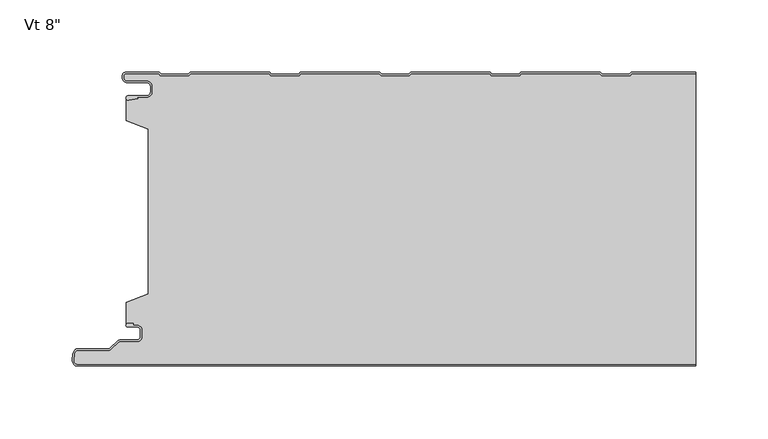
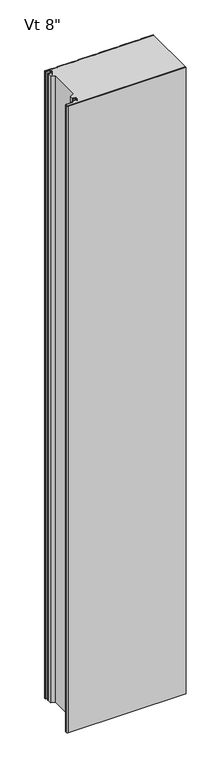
"""IFC4 building model written with IfcOpenShell, lengths in millimetres: plate geometry."""

from ifc_helpers import new_model, si_unit, point, frame, frame_2d, origin, origin_with_axes, place, context, project, spatial, polyline, circle_curve, trimmed, segment, composite_curve, outline, extrude, source, transform, mapped, element, save
from ifc_brep_helpers import plane_surface, cylinder_surface, revolved_surface, advanced_brep


def plate_cf5771db(model_context):
    return source(origin(), model_context, "Body", "SolidModel", [
        extrude(outline(composite_curve([segment(polyline([(-196.9639401, -1.03e-05), (-173.8991777, -1.03e-05), (-172.6989573, -1.2002307), (-153.8919247, -1.2002307), (-152.6916939, 0.0), (-97.6993404, 0.0), (-96.4991097, -1.2002307), (-77.6920771, -1.2002307), (-76.4918463, 0.0), (-21.5159312, 0.0), (-20.3157004, -1.2002307), (-1.5086678, -1.2002307), (-0.3084371, 0.0), (54.667478, 0.0), (55.8677088, -1.2002307), (74.6747414, -1.2002307), (75.8749721, 0.0), (130.8673256, 0.0), (132.0675564, -1.2002307), (150.874589, -1.2002307), (152.0748197, 0.0), (196.6137654, 0.0), (196.6137654, -1.0), (152.4890333, -1.0), (151.2888025, -2.2002307), (131.6533428, -2.2002307), (130.4531121, -1.0), (76.2891857, -1.0), (75.0889549, -2.2002307), (55.4534952, -2.2002307), (54.2532645, -1.0), (0.1057765, -1.0), (-1.0944543, -2.2002307), (-20.729914, -2.2002307), (-21.9301447, -1.0), (-76.0776328, -1.0), (-77.2778635, -2.2002307), (-96.9133232, -2.2002307), (-98.113554, -1.0), (-152.2774804, -1.0), (-153.4777111, -2.2002307), (-173.1131708, -2.2002307), (-174.3133912, -1.0000103), (-196.9839768, -1.0000103)]), True, "CONTINUOUS"), segment(trimmed(circle_curve(frame_2d((-197.0487242, -2.3984828)), 1.3999705), [point((-196.9839768, -1.0000103))], [point((-198.4486947, -2.3984828))], True, "CARTESIAN"), True, "CONTINUOUS"), segment(polyline([(-198.4486947, -2.3984828), (-198.4486947, -3.9515996)]), True, "CONTINUOUS"), segment(trimmed(circle_curve(frame_2d((-196.2386394, -3.9515996)), 2.2100553), [point((-198.4486947, -3.9515996))], [point((-196.2386394, -6.1616549))], True, "CARTESIAN"), True, "CONTINUOUS"), segment(polyline([(-196.2386394, -6.1616549), (-182.7094114, -6.1616549)]), True, "CONTINUOUS"), segment(trimmed(circle_curve(frame_2d((-182.7094114, -9.881641)), 3.7199861), [point((-182.7094114, -6.1616549))], [point((-178.9894252, -9.881641))], False, "CARTESIAN"), True, "CONTINUOUS"), segment(polyline([(-178.9894252, -9.881641), (-178.9894252, -13.5282389)]), True, "CONTINUOUS"), segment(trimmed(circle_curve(frame_2d((-182.7094216, -13.5282389)), 3.7199964), [point((-178.9894252, -13.5282389))], [point((-182.7094216, -17.2482353))], False, "CARTESIAN"), True, "CONTINUOUS"), segment(polyline([(-182.7094216, -17.2482353), (-189.0545396, -17.2482353), (-188.8919338, -18.1704184), (-195.1454629, -19.2730843)]), True, "CONTINUOUS"), segment(trimmed(circle_curve(frame_2d((-195.4101029, -17.7722363)), 1.524001), [point((-195.1454629, -19.2730843))], [point((-195.4101029, -16.2482353))], False, "CARTESIAN"), True, "CONTINUOUS"), segment(polyline([(-195.4101029, -16.2482353), (-182.7094216, -16.2482353)]), True, "CONTINUOUS"), segment(trimmed(circle_curve(frame_2d((-182.7094216, -13.5282389)), 2.7199964), [point((-182.7094216, -16.2482353))], [point((-179.9894252, -13.5282389))], True, "CARTESIAN"), True, "CONTINUOUS"), segment(polyline([(-179.9894252, -13.5282389), (-179.9894252, -9.881641)]), True, "CONTINUOUS"), segment(trimmed(circle_curve(frame_2d((-182.7094114, -9.881641)), 2.7199861), [point((-179.9894252, -9.881641))], [point((-182.7094114, -7.1616549))], True, "CARTESIAN"), True, "CONTINUOUS"), segment(polyline([(-182.7094114, -7.1616549), (-196.2386394, -7.1616549)]), True, "CONTINUOUS"), segment(trimmed(circle_curve(frame_2d((-196.2386394, -3.9515996)), 3.2100553), [point((-196.2386394, -7.1616549))], [point((-199.4486948, -3.9515996))], False, "CARTESIAN"), True, "CONTINUOUS"), segment(polyline([(-199.4486948, -3.9515996), (-199.4486947, -2.3984828)]), True, "CONTINUOUS"), segment(trimmed(circle_curve(frame_2d((-197.0487242, -2.3984828)), 2.3999705), [point((-199.4486947, -2.3984828))], [point((-196.9639401, -1.03e-05))], False, "CARTESIAN"), True, "CONTINUOUS")], self_intersect=False)), origin_with_axes(), (0.0, 0.0, 1.0), 2400.0),
        extrude(outline(composite_curve([segment(polyline([(-195.7329864, -173.7060333), (-191.9745857, -173.7060333), (-191.9745857, -175.1045169), (-189.2754693, -175.1045169)]), True, "CONTINUOUS"), segment(trimmed(circle_curve(frame_2d((-189.2754693, -178.4545168)), 3.3499999), [point((-189.2754693, -175.1045169))], [point((-185.9254694, -178.4545168))], False, "CARTESIAN"), True, "CONTINUOUS"), segment(polyline([(-185.9254694, -178.4545168), (-185.9254694, -182.8545166)]), True, "CONTINUOUS"), segment(trimmed(circle_curve(frame_2d((-189.2754693, -182.8545166)), 3.3499999), [point((-185.9254694, -182.8545166))], [point((-189.2754693, -186.2045165))], False, "CARTESIAN"), True, "CONTINUOUS"), segment(polyline([(-189.2754693, -186.2045165), (-201.0863815, -186.2045165)]), True, "CONTINUOUS"), segment(trimmed(circle_curve(frame_2d((-201.0863815, -187.9045165)), 1.7), [point((-201.0863815, -186.2045165))], [point((-202.288463, -186.702435))], True, "CARTESIAN"), True, "CONTINUOUS"), segment(polyline([(-202.288463, -186.702435), (-207.029022, -191.4429939)]), True, "CONTINUOUS"), segment(trimmed(circle_curve(frame_2d((-208.8674996, -189.6045163)), 2.6), [point((-207.029022, -191.4429939))], [point((-208.8674996, -192.2045163))], False, "CARTESIAN"), True, "CONTINUOUS"), segment(polyline([(-208.8674996, -192.2045163), (-229.8742569, -192.2045163)]), True, "CONTINUOUS"), segment(trimmed(circle_curve(frame_2d((-229.8742569, -194.9045163)), 2.7), [point((-229.8742569, -192.2045163))], [point((-232.563964, -194.6689835))], True, "CARTESIAN"), True, "CONTINUOUS"), segment(polyline([(-232.563964, -194.6689835), (-232.9796492, -199.4159721)]), True, "CONTINUOUS"), segment(trimmed(circle_curve(frame_2d((-230.4287597, -199.6393488)), 2.5606512), [point((-232.9796492, -199.4159721))], [point((-230.4287597, -202.2))], True, "CARTESIAN"), True, "CONTINUOUS"), segment(polyline([(-230.4287597, -202.2), (196.6137654, -202.2), (196.6137654, -203.2), (-230.4287597, -203.2)]), True, "CONTINUOUS"), segment(trimmed(circle_curve(frame_2d((-230.4287597, -199.6393488)), 3.5606512), [point((-230.4287597, -203.2))], [point((-233.975837, -199.3287377))], False, "CARTESIAN"), True, "CONTINUOUS"), segment(polyline([(-233.975837, -199.3287377), (-233.5601518, -194.5817491)]), True, "CONTINUOUS"), segment(trimmed(circle_curve(frame_2d((-229.8742569, -194.9045163)), 3.7), [point((-233.5601518, -194.5817491))], [point((-229.8742569, -191.2045163))], False, "CARTESIAN"), True, "CONTINUOUS"), segment(polyline([(-229.8742569, -191.2045163), (-208.8674996, -191.2045163)]), True, "CONTINUOUS"), segment(trimmed(circle_curve(frame_2d((-208.8674996, -189.6045163)), 1.6), [point((-208.8674996, -191.2045163))], [point((-207.7361288, -190.7358871))], True, "CARTESIAN"), True, "CONTINUOUS"), segment(polyline([(-207.7361288, -190.7358871), (-202.9955698, -185.9953282)]), True, "CONTINUOUS"), segment(trimmed(circle_curve(frame_2d((-201.0863815, -187.9045165)), 2.7), [point((-202.9955698, -185.9953282))], [point((-201.0863815, -185.2045165))], False, "CARTESIAN"), True, "CONTINUOUS"), segment(polyline([(-201.0863815, -185.2045165), (-189.2754693, -185.2045165)]), True, "CONTINUOUS"), segment(trimmed(circle_curve(frame_2d((-189.2754693, -182.8545166)), 2.3499999), [point((-189.2754693, -185.2045165))], [point((-186.9254694, -182.8545166))], True, "CARTESIAN"), True, "CONTINUOUS"), segment(polyline([(-186.9254694, -182.8545166), (-186.9254694, -178.4545168)]), True, "CONTINUOUS"), segment(trimmed(circle_curve(frame_2d((-189.2754693, -178.4545168)), 2.3499999), [point((-186.9254694, -178.4545168))], [point((-189.2754693, -176.1045169))], True, "CARTESIAN"), True, "CONTINUOUS"), segment(polyline([(-189.2754693, -176.1045169), (-195.7947883, -176.1045169)]), True, "CONTINUOUS"), segment(trimmed(circle_curve(frame_2d((-195.734501, -174.9060323)), 1.2), [point((-195.7947883, -176.1045169))], [point((-195.7329864, -173.7060333))], False, "CARTESIAN"), True, "CONTINUOUS")], self_intersect=False)), origin_with_axes(), (0.0, 0.0, 1.0), 2400.0),
        advanced_brep(
        [(-189.2754693, -175.1045169, 2400.0), (-185.9254694, -178.4545168, 2400.0), (-185.9254694, -182.8545166, 2400.0), (-189.2754693, -186.2045165, 2400.0), (-201.0863815, -186.2045165, 2400.0), (-202.288463, -186.702435, 2400.0), (-207.029022, -191.4429939, 2400.0), (-208.8674996, -192.2045163, 2400.0), (-229.8742569, -192.2045163, 2400.0), (-232.563964, -194.6689835, 2400.0), (-232.9796492, -199.4159721, 2400.0), (-230.4287597, -202.2, 2400.0), (196.6137654, -202.2, 2400.0), (196.6137654, -1.0, 2400.0), (152.4890333, -1.0, 2400.0), (151.2888025, -2.2002307, 2400.0), (131.6533428, -2.2002307, 2400.0), (130.4531121, -1.0, 2400.0), (76.2891857, -1.0, 2400.0), (75.0889549, -2.2002307, 2400.0), (55.4534952, -2.2002307, 2400.0), (54.2532645, -1.0, 2400.0), (0.1057765, -1.0, 2400.0), (-1.0944543, -2.2002307, 2400.0), (-20.729914, -2.2002307, 2400.0), (-21.9301447, -1.0, 2400.0), (-76.0776328, -1.0, 2400.0), (-77.2778635, -2.2002307, 2400.0), (-96.9133232, -2.2002307, 2400.0), (-98.113554, -1.0, 2400.0), (-152.2774804, -1.0, 2400.0), (-153.4777111, -2.2002307, 2400.0), (-173.1131708, -2.2002307, 2400.0), (-174.3133912, -1.0000103, 2400.0), (-196.9839768, -1.0000103, 2400.0), (-198.4486947, -2.3984828, 2400.0), (-198.4486947, -3.9515996, 2400.0), (-196.2386394, -6.1616549, 2400.0), (-182.7094114, -6.1616549, 2400.0), (-178.9894252, -9.881641, 2400.0), (-178.9894252, -13.5282389, 2400.0), (-182.7094216, -17.2482353, 2400.0), (-189.0545396, -17.2482353, 2400.0), (-188.8919338, -18.1704184, 2400.0), (-195.1454629, -19.2730843, 2400.0), (-196.5999998, -18.7244571, 2400.0), (-196.5999998, -33.5050578, 2400.0), (-181.6020466, -39.1301019, 2400.0), (-181.588281, -153.3686066, 2400.0), (-196.5999998, -158.9928342, 2400.0), (-196.5999998, -174.0748213, 2400.0), (-195.7329864, -173.7060333, 2400.0), (-191.9745857, -173.7060333, 2400.0), (-191.9745857, -175.1045169, 2400.0), (-189.2754693, -175.1045169, 0.0), (-191.9745857, -175.1045169, 0.0), (-191.9745857, -173.7060333, 0.0), (-195.7329864, -173.7060333, 0.0), (-196.5999998, -174.0748213, 0.0), (-196.5999998, -158.9928342, 0.0), (-181.6020466, -153.3686066, 0.0), (-181.588281, -39.1301019, 0.0), (-196.5999998, -33.5050578, 0.0), (-196.5999998, -18.7244571, 0.0), (-195.1454629, -19.2730843, 0.0), (-188.8919338, -18.1704184, 0.0), (-189.0545396, -17.2482353, 0.0), (-182.7094216, -17.2482353, 0.0), (-178.9894252, -13.5282389, 0.0), (-178.9894252, -9.881641, 0.0), (-182.7094114, -6.1616549, 0.0), (-196.2386394, -6.1616549, 0.0), (-198.4486948, -3.9515996, 0.0), (-198.4486947, -2.3984828, 0.0), (-196.9839768, -1.0000103, 0.0), (-174.3133912, -1.0000103, 0.0), (-173.1131708, -2.2002307, 0.0), (-153.4777111, -2.2002307, 0.0), (-152.2774804, -1.0, 0.0), (-98.113554, -1.0, 0.0), (-96.9133232, -2.2002307, 0.0), (-77.2778635, -2.2002307, 0.0), (-76.0776328, -1.0, 0.0), (-21.9301447, -1.0, 0.0), (-20.729914, -2.2002307, 0.0), (-1.0944543, -2.2002307, 0.0), (0.1057765, -1.0, 0.0), (54.2532645, -1.0, 0.0), (55.4534952, -2.2002307, 0.0), (75.0889549, -2.2002307, 0.0), (76.2891857, -1.0, 0.0), (130.4531121, -1.0, 0.0), (131.6533428, -2.2002307, 0.0), (151.2888025, -2.2002307, 0.0), (152.4890333, -1.0, 0.0), (196.6137654, -1.0, 0.0), (196.6137654, -202.2, 0.0), (-230.4287597, -202.2, 0.0), (-232.9796492, -199.4159721, 0.0), (-232.563964, -194.6689835, 0.0), (-229.8742569, -192.2045163, 0.0), (-208.8674996, -192.2045163, 0.0), (-207.029022, -191.4429939, 0.0), (-202.288463, -186.702435, 0.0), (-201.0863815, -186.2045165, 0.0), (-189.2754693, -186.2045165, 0.0), (-185.9254694, -182.8545166, 0.0), (-185.9254694, -178.4545168, 0.0)],
        [
            (0, 1, circle_curve(frame((-189.2754693, -178.4545168, 2400.0), z_axis=(0.0, 0.0, -1.0), x_axis=(-1.0, 0.0, 0.0)), 3.3499999)),
            (1, 2),
            (2, 3, circle_curve(frame((-189.2754693, -182.8545166, 2400.0), z_axis=(0.0, 0.0, -1.0), x_axis=(-1.0, 0.0, 0.0)), 3.3499999)),
            (3, 4),
            (4, 5, circle_curve(frame((-201.0863815, -187.9045165, 2400.0), z_axis=(0.0, 0.0, 1.0), x_axis=(-1.0, 0.0, 0.0)), 1.7)),
            (5, 6),
            (6, 7, circle_curve(frame((-208.8674996, -189.6045163, 2400.0), z_axis=(0.0, 0.0, -1.0), x_axis=(-1.0, 0.0, 0.0)), 2.6)),
            (7, 8),
            (8, 9, circle_curve(frame((-229.8742569, -194.9045163, 2400.0), z_axis=(0.0, 0.0, 1.0), x_axis=(-1.0, 0.0, 0.0)), 2.7)),
            (9, 10),
            (10, 11, circle_curve(frame((-230.4287597, -199.6393488, 2400.0), z_axis=(0.0, 0.0, 1.0), x_axis=(-1.0, 0.0, 0.0)), 2.5606512)),
            (11, 12),
            (12, 13),
            (13, 14),
            (14, 15),
            (15, 16),
            (16, 17),
            (17, 18),
            (18, 19),
            (19, 20),
            (20, 21),
            (21, 22),
            (22, 23),
            (23, 24),
            (24, 25),
            (25, 26),
            (26, 27),
            (27, 28),
            (28, 29),
            (29, 30),
            (30, 31),
            (31, 32),
            (32, 33),
            (33, 34),
            (34, 35, circle_curve(frame((-197.0487242, -2.3984828, 2400.0), z_axis=(0.0, 0.0, 1.0), x_axis=(-1.0, 0.0, 0.0)), 1.3999705)),
            (35, 36),
            (36, 37, circle_curve(frame((-196.2386394, -3.9515996, 2400.0), z_axis=(0.0, 0.0, 1.0), x_axis=(-1.0, 0.0, 0.0)), 2.2100553)),
            (37, 38),
            (38, 39, circle_curve(frame((-182.7094114, -9.881641, 2400.0), z_axis=(0.0, 0.0, -1.0), x_axis=(-1.0, 0.0, 0.0)), 3.7199861)),
            (39, 40),
            (40, 41, circle_curve(frame((-182.7094216, -13.5282389, 2400.0), z_axis=(0.0, 0.0, -1.0), x_axis=(-1.0, 0.0, 0.0)), 3.7199964)),
            (41, 42),
            (42, 43),
            (43, 44),
            (44, 45, circle_curve(frame((-195.4101029, -17.7722363, 2400.0), z_axis=(0.0, 0.0, -1.0), x_axis=(-1.0, 0.0, 0.0)), 1.524001)),
            (45, 46),
            (46, 47),
            (47, 48),
            (48, 49),
            (49, 50),
            (50, 51, circle_curve(frame((-195.734501, -174.9060323, 2400.0), z_axis=(0.0, 0.0, -1.0), x_axis=(-1.0, 0.0, 0.0)), 1.2)),
            (51, 52),
            (52, 53),
            (53, 0),
            (54, 55),
            (55, 56),
            (56, 57),
            (57, 58, circle_curve(frame((-195.734501, -174.9060323, 0.0), z_axis=(0.0, 0.0, 1.0), x_axis=(-1.0, 0.0, 0.0)), 1.2)),
            (58, 59),
            (59, 60),
            (60, 61),
            (61, 62),
            (62, 63),
            (63, 64, circle_curve(frame((-195.4101029, -17.7722363, 0.0), z_axis=(0.0, 0.0, 1.0), x_axis=(-1.0, 0.0, 0.0)), 1.524001)),
            (64, 65),
            (65, 66),
            (66, 67),
            (67, 68, circle_curve(frame((-182.7094216, -13.5282389, 0.0), z_axis=(0.0, 0.0, 1.0), x_axis=(-1.0, 0.0, 0.0)), 3.7199964)),
            (68, 69),
            (69, 70, circle_curve(frame((-182.7094114, -9.881641, 0.0), z_axis=(0.0, 0.0, 1.0), x_axis=(-1.0, 0.0, 0.0)), 3.7199861)),
            (70, 71),
            (71, 72, circle_curve(frame((-196.2386394, -3.9515996, 0.0), z_axis=(0.0, 0.0, -1.0), x_axis=(-1.0, 0.0, 0.0)), 2.2100553)),
            (72, 73),
            (73, 74, circle_curve(frame((-197.0487242, -2.3984828, 0.0), z_axis=(0.0, 0.0, -1.0), x_axis=(-1.0, 0.0, 0.0)), 1.3999705)),
            (74, 75),
            (75, 76),
            (76, 77),
            (77, 78),
            (78, 79),
            (79, 80),
            (80, 81),
            (81, 82),
            (82, 83),
            (83, 84),
            (84, 85),
            (85, 86),
            (86, 87),
            (87, 88),
            (88, 89),
            (89, 90),
            (90, 91),
            (91, 92),
            (92, 93),
            (93, 94),
            (94, 95),
            (95, 96),
            (96, 97),
            (97, 98, circle_curve(frame((-230.4287597, -199.6393488, 0.0), z_axis=(0.0, 0.0, -1.0), x_axis=(-1.0, 0.0, 0.0)), 2.5606512)),
            (98, 99),
            (99, 100, circle_curve(frame((-229.8742569, -194.9045163, 0.0), z_axis=(0.0, 0.0, -1.0), x_axis=(-1.0, 0.0, 0.0)), 2.7)),
            (100, 101),
            (101, 102, circle_curve(frame((-208.8674996, -189.6045163, 0.0), z_axis=(0.0, 0.0, 1.0), x_axis=(-1.0, 0.0, 0.0)), 2.6)),
            (102, 103),
            (103, 104, circle_curve(frame((-201.0863815, -187.9045165, 0.0), z_axis=(0.0, 0.0, -1.0), x_axis=(-1.0, 0.0, 0.0)), 1.7)),
            (104, 105),
            (105, 106, circle_curve(frame((-189.2754693, -182.8545166, 0.0), z_axis=(0.0, 0.0, 1.0), x_axis=(-1.0, 0.0, 0.0)), 3.3499999)),
            (106, 107),
            (107, 54, circle_curve(frame((-189.2754693, -178.4545168, 0.0), z_axis=(0.0, 0.0, 1.0), x_axis=(-1.0, 0.0, 0.0)), 3.3499999)),
            (48, 60),
            (59, 49),
            (58, 50),
            (2, 106),
            (105, 3),
            (1, 107),
            (104, 4),
            (103, 5),
            (6, 102),
            (101, 7),
            (100, 8),
            (99, 9),
            (10, 98),
            (97, 11),
            (96, 12),
            (57, 51),
            (52, 56),
            (55, 53),
            (54, 0),
            (38, 70),
            (69, 39),
            (37, 71),
            (36, 72),
            (35, 73),
            (34, 74),
            (33, 75),
            (32, 76),
            (31, 77),
            (30, 78),
            (29, 79),
            (28, 80),
            (27, 81),
            (26, 82),
            (25, 83),
            (24, 84),
            (23, 85),
            (22, 86),
            (21, 87),
            (20, 88),
            (19, 89),
            (18, 90),
            (17, 91),
            (16, 92),
            (15, 93),
            (14, 94),
            (13, 95),
            (46, 62),
            (61, 47),
            (45, 63),
            (44, 64),
            (43, 65),
            (42, 66),
            (41, 67),
            (40, 68),
        ],
        [
            plane_surface(frame((336.2637657, -202.2, 2400.0), z_axis=(0.0, 0.0, 1.0), x_axis=(0.0, -1.0, 0.0))),
            plane_surface(frame((336.2637657, -202.2, 0.0), z_axis=(0.0, 0.0, -1.0), x_axis=(0.0, -1.0, 0.0))),
            plane_surface(frame((-196.5999998, -158.9928342, 2400.0), z_axis=(-0.3511231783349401, 0.9363292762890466, 0.0), x_axis=(0.0, 0.0, -1.0))),
            plane_surface(frame((-196.5999998, -174.0748213, 2400.0), z_axis=(-1.0, 0.0, 0.0), x_axis=(0.0, 0.0, -1.0))),
            revolved_surface(polyline([(-192.6254692, -182.8545166, 0.0), (-192.6254692, -182.8545166, 2400.0)]), (-189.2754693, -182.8545166, 2400.0), (0.0, 0.0, -1.0)),
            plane_surface(frame((-185.9254694, -182.8545166, 2400.0), z_axis=(-1.0, 0.0, 0.0), x_axis=(0.0, 0.0, -1.0))),
            plane_surface(frame((-201.0863815, -186.2045165, 2400.0), z_axis=(0.0, 1.0, 0.0), x_axis=(0.0, 0.0, -1.0))),
            cylinder_surface(frame((-201.0863815, -187.9045165, 2400.0), z_axis=(0.0, 0.0, 1.0), x_axis=(-1.0, 0.0, 0.0)), 1.7),
            revolved_surface(polyline([(-211.4674996, -189.6045163, 0.0), (-211.4674996, -189.6045163, 2400.0)]), (-208.8674996, -189.6045163, 2400.0), (0.0, 0.0, -1.0)),
            plane_surface(frame((-207.029022, -191.4429939, 2400.0), z_axis=(-0.7071067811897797, 0.7071067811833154, 0.0), x_axis=(0.0, 0.0, -1.0))),
            plane_surface(frame((-229.8742569, -192.2045163, 2400.0), z_axis=(0.0, 1.0, 0.0), x_axis=(0.0, 0.0, -1.0))),
            cylinder_surface(frame((-229.8742569, -194.9045163, 2400.0), z_axis=(0.0, 0.0, 1.0), x_axis=(-1.0, 0.0, 0.0)), 2.7),
            cylinder_surface(frame((-230.4287597, -199.6393488, 2400.0), z_axis=(0.0, 0.0, 1.0), x_axis=(-1.0, 0.0, 0.0)), 2.5606512),
            plane_surface(frame((-232.9796492, -199.4159721, 2400.0), z_axis=(-0.9961878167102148, 0.08723436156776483, 0.0), x_axis=(0.0, 0.0, -1.0))),
            plane_surface(frame((824.4519051, -202.2, 2400.0), z_axis=(0.0, -1.0, 0.0), x_axis=(0.0, 0.0, -1.0))),
            revolved_surface(polyline([(-196.93450099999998, -174.9060323, 0.0), (-196.93450099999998, -174.9060323, 2400.0)]), (-195.734501, -174.9060323, 2400.0), (0.0, 0.0, -1.0)),
            plane_surface(frame((-191.9745857, -175.1045169, 2400.0), z_axis=(-1.0, 0.0, 0.0), x_axis=(0.0, 0.0, -1.0))),
            plane_surface(frame((-191.9745857, -173.7060333, 2400.0), z_axis=(0.0, -1.0, 0.0), x_axis=(0.0, 0.0, -1.0))),
            plane_surface(frame((-189.2754693, -175.1045169, 2400.0), z_axis=(0.0, -1.0, 0.0), x_axis=(0.0, 0.0, -1.0))),
            revolved_surface(polyline([(-192.6254692, -178.4545168, 0.0), (-192.6254692, -178.4545168, 2400.0)]), (-189.2754693, -178.4545168, 2400.0), (0.0, 0.0, -1.0)),
            revolved_surface(polyline([(-186.4293975, -9.881641, 0.0), (-186.4293975, -9.881641, 2400.0)]), (-182.7094114, -9.881641, 2400.0), (0.0, 0.0, -1.0)),
            plane_surface(frame((-182.7094114, -6.1616549, 2400.0), z_axis=(0.0, -1.0, 0.0), x_axis=(0.0, 0.0, -1.0))),
            cylinder_surface(frame((-196.2386394, -3.9515996, 2400.0), z_axis=(0.0, 0.0, 1.0), x_axis=(-1.0, 0.0, 0.0)), 2.2100553),
            plane_surface(frame((-198.4486947, -3.9515996, 2400.0), z_axis=(-1.0, 0.0, 0.0), x_axis=(0.0, 0.0, -1.0))),
            cylinder_surface(frame((-197.0487242, -2.3984828, 2400.0), z_axis=(0.0, 0.0, 1.0), x_axis=(-1.0, 0.0, 0.0)), 1.3999705),
            plane_surface(frame((-196.9839768, -1.0000103, 2400.0), z_axis=(0.0, 1.0, 0.0), x_axis=(0.0, 0.0, -1.0))),
            plane_surface(frame((-174.3133912, -1.0000103, 2400.0), z_axis=(0.7071067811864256, 0.7071067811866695, 0.0), x_axis=(0.0, 0.0, -1.0))),
            plane_surface(frame((-163.295441, -2.2002307, 2400.0), z_axis=(0.0, 1.0, 0.0), x_axis=(0.0, 0.0, -1.0))),
            plane_surface(frame((-153.4777111, -2.2002307, 2400.0), z_axis=(-0.7071067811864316, 0.7071067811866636, 0.0), x_axis=(0.0, 0.0, -1.0))),
            plane_surface(frame((-152.2774804, -1.0, 2400.0), z_axis=(0.0, 1.0, 0.0), x_axis=(0.0, 0.0, -1.0))),
            plane_surface(frame((-98.113554, -1.0, 2400.0), z_axis=(0.7071067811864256, 0.7071067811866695, 0.0), x_axis=(0.0, 0.0, -1.0))),
            plane_surface(frame((-87.0955934, -2.2002307, 2400.0), z_axis=(0.0, 1.0, 0.0), x_axis=(0.0, 0.0, -1.0))),
            plane_surface(frame((-77.2778635, -2.2002307, 2400.0), z_axis=(-0.7071067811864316, 0.7071067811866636, 0.0), x_axis=(0.0, 0.0, -1.0))),
            plane_surface(frame((-76.0776328, -1.0, 2400.0), z_axis=(0.0, 1.0, 0.0), x_axis=(0.0, 0.0, -1.0))),
            plane_surface(frame((-21.9301447, -1.0, 2400.0), z_axis=(0.7071067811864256, 0.7071067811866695, 0.0), x_axis=(0.0, 0.0, -1.0))),
            plane_surface(frame((-10.9121841, -2.2002307, 2400.0), z_axis=(0.0, 1.0, 0.0), x_axis=(0.0, 0.0, -1.0))),
            plane_surface(frame((-1.0944543, -2.2002307, 2400.0), z_axis=(-0.7071067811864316, 0.7071067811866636, 0.0), x_axis=(0.0, 0.0, -1.0))),
            plane_surface(frame((0.1057765, -1.0, 2400.0), z_axis=(0.0, 1.0, 0.0), x_axis=(0.0, 0.0, -1.0))),
            plane_surface(frame((54.2532645, -1.0, 2400.0), z_axis=(0.7071067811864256, 0.7071067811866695, 0.0), x_axis=(0.0, 0.0, -1.0))),
            plane_surface(frame((65.2712251, -2.2002307, 2400.0), z_axis=(0.0, 1.0, 0.0), x_axis=(0.0, 0.0, -1.0))),
            plane_surface(frame((75.0889549, -2.2002307, 2400.0), z_axis=(-0.7071067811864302, 0.7071067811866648, 0.0), x_axis=(0.0, 0.0, -1.0))),
            plane_surface(frame((76.2891857, -1.0, 2400.0), z_axis=(0.0, 1.0, 0.0), x_axis=(0.0, 0.0, -1.0))),
            plane_surface(frame((130.4531121, -1.0, 2400.0), z_axis=(0.7071067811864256, 0.7071067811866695, 0.0), x_axis=(0.0, 0.0, -1.0))),
            plane_surface(frame((141.4710727, -2.2002307, 2400.0), z_axis=(0.0, 1.0, 0.0), x_axis=(0.0, 0.0, -1.0))),
            plane_surface(frame((151.2888025, -2.2002307, 2400.0), z_axis=(-0.7071067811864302, 0.7071067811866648, 0.0), x_axis=(0.0, 0.0, -1.0))),
            plane_surface(frame((152.4890333, -1.0, 2400.0), z_axis=(0.0, 1.0, 0.0), x_axis=(0.0, 0.0, -1.0))),
            plane_surface(frame((-181.6020466, -39.1301019, 2400.0), z_axis=(-0.35116785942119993, -0.9363125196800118, 0.0), x_axis=(0.0, 0.0, -1.0))),
            plane_surface(frame((-196.5999998, -33.5050578, 2400.0), z_axis=(-1.0, 0.0, 0.0), x_axis=(0.0, 0.0, -1.0))),
            revolved_surface(polyline([(-196.9341039, -17.7722363, 0.0), (-196.9341039, -17.7722363, 2400.0)]), (-195.4101029, -17.7722363, 2400.0), (0.0, 0.0, -1.0)),
            plane_surface(frame((-195.1454629, -19.2730843, 2400.0), z_axis=(-0.17364817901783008, 0.9848077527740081, 0.0), x_axis=(0.0, 0.0, -1.0))),
            plane_surface(frame((-188.8919338, -18.1704184, 2400.0), z_axis=(-0.9848077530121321, -0.17364817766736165, 0.0), x_axis=(0.0, 0.0, -1.0))),
            plane_surface(frame((-189.0545396, -17.2482353, 2400.0), z_axis=(0.0, 1.0, 0.0), x_axis=(0.0, 0.0, -1.0))),
            revolved_surface(polyline([(-186.42941800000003, -13.5282389, 0.0), (-186.42941800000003, -13.5282389, 2400.0)]), (-182.7094216, -13.5282389, 2400.0), (0.0, 0.0, -1.0)),
            plane_surface(frame((-178.9894252, -13.5282389, 2400.0), z_axis=(-1.0, 0.0, 0.0), x_axis=(0.0, 0.0, -1.0))),
            plane_surface(frame((-181.588281, -153.3686066, 2400.0), z_axis=(-1.0, 0.0, 0.0), x_axis=(0.0, 0.0, -1.0))),
            plane_surface(frame((196.6137654, -215.2, 2400.0), z_axis=(1.0, 0.0, 0.0), x_axis=(0.0, 0.0, -1.0))),
        ],
        [
            (0, [[1, 2, 3, 4, 5, 6, 7, 8, 9, 10, 11, 12, 13, 14, 15, 16, 17, 18, 19, 20, 21, 22, 23, 24, 25, 26, 27, 28, 29, 30, 31, 32, 33, 34, 35, 36, 37, 38, 39, 40, 41, 42, 43, 44, 45, 46, 47, 48, 49, 50, 51, 52, 53, 54]]),
            (1, [[55, 56, 57, 58, 59, 60, 61, 62, 63, 64, 65, 66, 67, 68, 69, 70, 71, 72, 73, 74, 75, 76, 77, 78, 79, 80, 81, 82, 83, 84, 85, 86, 87, 88, 89, 90, 91, 92, 93, 94, 95, 96, 97, 98, 99, 100, 101, 102, 103, 104, 105, 106, 107, 108]]),
            (2, [[109, -60, 110, -49]]),
            (3, [[-110, -59, 111, -50]]),
            (4, [[112, -106, 113, -3]]),
            (5, [[114, -107, -112, -2]]),
            (6, [[-113, -105, 115, -4]]),
            (7, [[-115, -104, 116, -5]]),
            (8, [[117, -102, 118, -7]]),
            (9, [[-116, -103, -117, -6]]),
            (10, [[-118, -101, 119, -8]]),
            (11, [[-119, -100, 120, -9]]),
            (12, [[121, -98, 122, -11]]),
            (13, [[-120, -99, -121, -10]]),
            (14, [[-97, 123, -12, -122]]),
            (15, [[-111, -58, 124, -51]]),
            (16, [[125, -56, 126, -53]]),
            (17, [[-124, -57, -125, -52]]),
            (18, [[-126, -55, 127, -54]]),
            (19, [[-127, -108, -114, -1]]),
            (20, [[128, -70, 129, -39]]),
            (21, [[130, -71, -128, -38]]),
            (22, [[131, -72, -130, -37]]),
            (23, [[132, -73, -131, -36]]),
            (24, [[133, -74, -132, -35]]),
            (25, [[134, -75, -133, -34]]),
            (26, [[135, -76, -134, -33]]),
            (27, [[136, -77, -135, -32]]),
            (28, [[137, -78, -136, -31]]),
            (29, [[138, -79, -137, -30]]),
            (30, [[139, -80, -138, -29]]),
            (31, [[140, -81, -139, -28]]),
            (32, [[141, -82, -140, -27]]),
            (33, [[142, -83, -141, -26]]),
            (34, [[143, -84, -142, -25]]),
            (35, [[144, -85, -143, -24]]),
            (36, [[145, -86, -144, -23]]),
            (37, [[146, -87, -145, -22]]),
            (38, [[147, -88, -146, -21]]),
            (39, [[148, -89, -147, -20]]),
            (40, [[149, -90, -148, -19]]),
            (41, [[150, -91, -149, -18]]),
            (42, [[151, -92, -150, -17]]),
            (43, [[152, -93, -151, -16]]),
            (44, [[153, -94, -152, -15]]),
            (45, [[-14, 154, -95, -153]]),
            (46, [[155, -62, 156, -47]]),
            (47, [[157, -63, -155, -46]]),
            (48, [[158, -64, -157, -45]]),
            (49, [[159, -65, -158, -44]]),
            (50, [[160, -66, -159, -43]]),
            (51, [[161, -67, -160, -42]]),
            (52, [[162, -68, -161, -41]]),
            (53, [[-129, -69, -162, -40]]),
            (54, [[-156, -61, -109, -48]]),
            (55, [[-123, -96, -154, -13]]),
        ],
    ),
    ])


if __name__ == "__main__":
    model = new_model("IFC4")
    model_context = context("Model", 3, world=origin())
    ifc_project = project(units=[si_unit("LENGTHUNIT", "METRE", prefix="MILLI")], contexts=[model_context])
    site = spatial("IfcSite", under=ifc_project)
    building = spatial("IfcBuilding", under=site)
    placement = place(None, origin())
    plate_shape = plate_cf5771db(model_context)
    element("IfcPlate", 1, ObjectType="KIP-42-KRHF-R19-CP-Vt-FL_SL : Vt 8\"", at=placement, inside=building, context=model_context, shape_type="MappedRepresentation", body=[
        mapped(plate_shape, transform((0.0, 0.0, 0.0), x_axis=(1.0, 0.0, 0.0), y_axis=(0.0, 1.0, 0.0), z_axis=(0.0, 0.0, 1.0))),
    ])
    save(model, "model.ifc")
